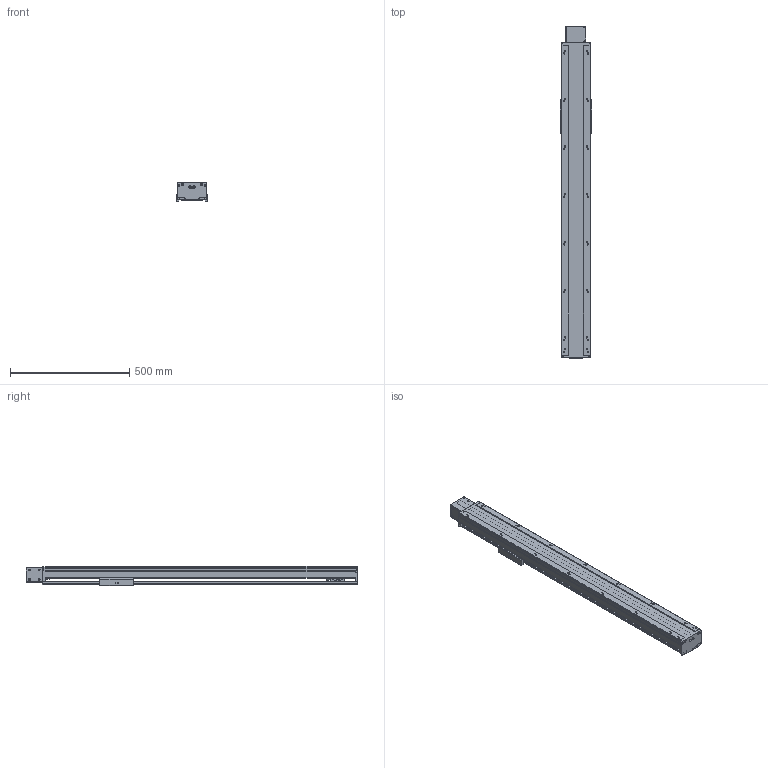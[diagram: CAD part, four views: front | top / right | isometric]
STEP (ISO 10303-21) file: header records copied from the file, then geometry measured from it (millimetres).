
FILE_DESCRIPTION(/* description */ (''),/* implementation_level */ '2;1');
FILE_NAME(/* name */ 'TKB120-FR-1000_asm1_stp_stp.stp',/* time_stamp */ '2016-06-28T16:04:48+08:00',/* author */ (''),/* organization */ (''),/* preprocessor_version */ 'ST-DEVELOPER v15',/* originating_system */ 'SIEMENS PLM Software NX 8.5',/* authorisation */ '');
FILE_SCHEMA (('AUTOMOTIVE_DESIGN { 1 0 10303 214 3 1 1 1 }'));
Length unit declared in the file: millimetre
Products named in the file (3): 200-2; 200-1; TKB120-FR-1000_asm1_stp_stp
Assembly tree (2 placements, depth 2):
  TKB120-FR-1000_asm1_stp_stp
    200-1
    200-2
Bounding box: 134 x 1391 x 80 mm (x, y, z)
Volume: 3624881.7 mm3; surface area: 1453564.5 mm2
Topology: 2 solids, 3 shells, 799 faces, 2333 edges, 1540 vertices
Faces by surface type: cylinder 393, plane 364, cone 42
Full cylindrical faces by diameter (mm): 2.5 x4, 3.3 x20, 4.2 x4, 4.5 x24, 5 x26, 5.5 x16, 6.6 x6, 6.8 x4, 7.5 x4, 8 x12, 9 x6, 9.75 x32, 10.5 x4, 11 x2, 12 x4, 14 x2, 17 x2, 35 x2, 40 x3, 50 x2, 52 x1
Entity records: 25981 total; most frequent: CARTESIAN_POINT 5547, DIRECTION 4300, ORIENTED_EDGE 3940, EDGE_CURVE 1970, AXIS2_PLACEMENT_3D 1634, VERTEX_POINT 1441, EDGE_LOOP 1197, LINE 1032
